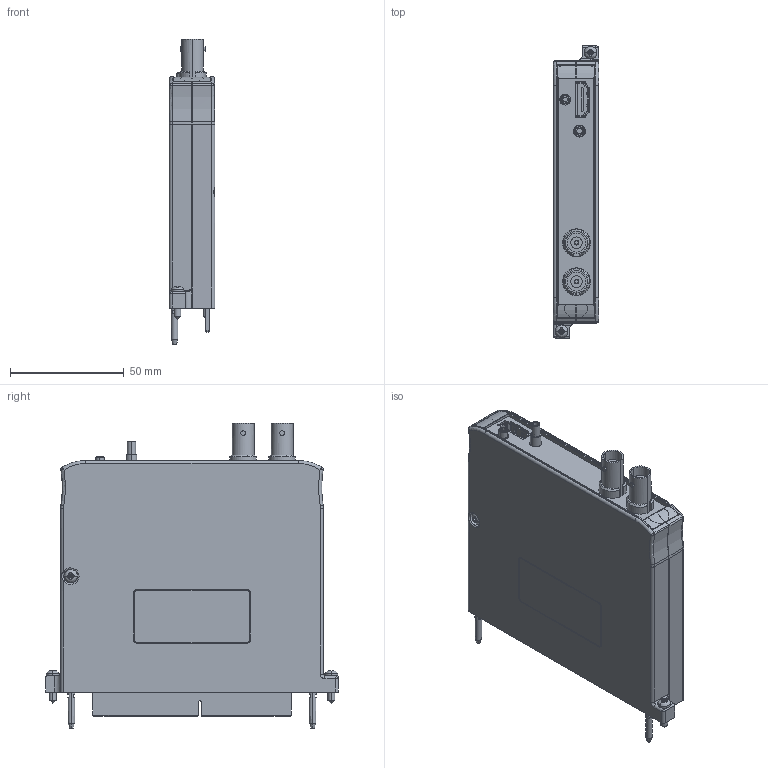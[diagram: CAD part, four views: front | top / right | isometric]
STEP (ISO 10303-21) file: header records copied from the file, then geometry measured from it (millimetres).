
FILE_DESCRIPTION((''),'2;1');
FILE_NAME('CU_NI-573X','2010-11-30T',('jjorden'),(''),'PRO/ENGINEER BY PARAMETRIC TECHNOLOGY CORPORATION, 2006510','PRO/ENGINEER BY PARAMETRIC TECHNOLOGY CORPORATION, 2006510','');
FILE_SCHEMA(('CONFIG_CONTROL_DESIGN'));
Length unit declared in the file: inch
Products named in the file (1): CU_NI-573X
Bounding box: 20.02 x 128.65 x 134.05 mm (x, y, z)
Volume: 56895.6 mm3; surface area: 93340.4 mm2
Topology: 2 solids, 3 shells, 1566 faces, 4101 edges, 2536 vertices
Faces by surface type: plane 849, cylinder 403, cone 132, bspline 102, torus 40, sphere 40
Entity records: 54060 total; most frequent: CARTESIAN_POINT 15692, ORIENTED_EDGE 8122, DIRECTION 7806, EDGE_CURVE 4061, AXIS2_PLACEMENT_3D 2700, VERTEX_POINT 2688, VECTOR 2406, LINE 2406
